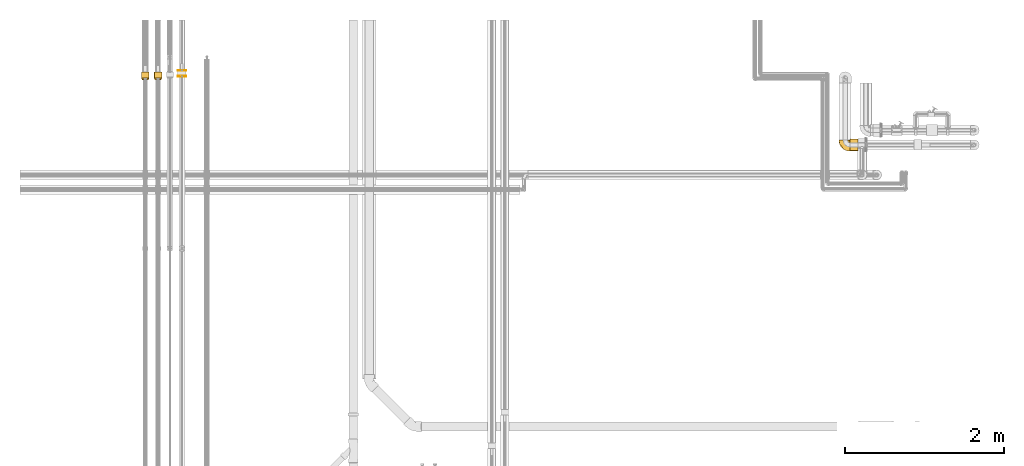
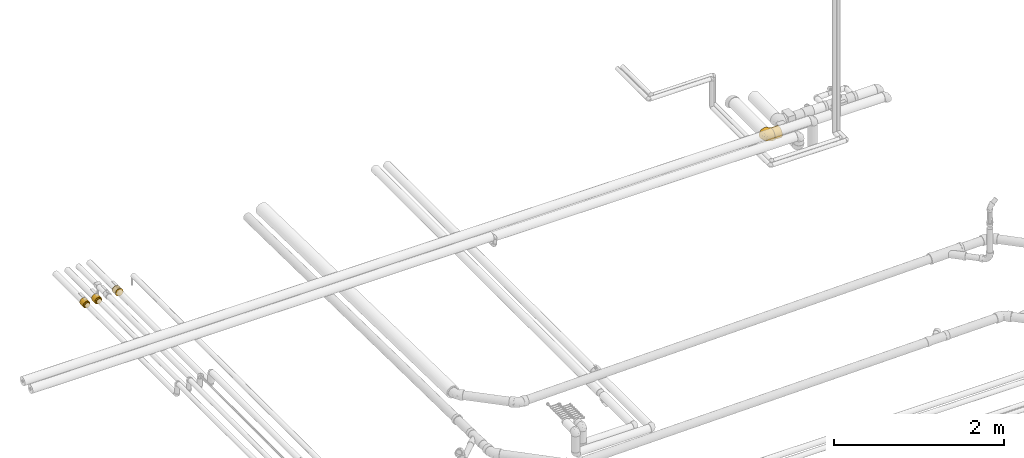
# One storey, part 6 of 83: 8 coverings.
"""IFC2X3 building model written with IfcOpenShell, lengths in millimetres."""

from ifc_helpers import new_model, entity, si_unit, converted_unit, derived_unit, direction, frame, origin_with_axes, origin_2d_with_axis, place, context, subcontext, project, spatial, hollow_circle, extrude, open_shell, surface_model, source, transform, mapped, element, save


model = new_model("IFC2X3")

# Units and contexts
model_context = context("Model", 3, precision=0.01, world=frame((0.0, 4.29681676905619e-09, 0.0)), true_north=direction((4.01073788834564e-13, 1.0)))
plan_context = context("Plan", 3, precision=0.01, world=frame((0.0, 4.29681676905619e-09, 0.0)), true_north=direction((4.01073788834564e-13, 1.0)))
body_context = subcontext(model_context, "Body", "Model", "MODEL_VIEW")
ifc_project = project(units=[converted_unit("PLANEANGLEUNIT", "DEGREE", entity("IfcPositiveLengthMeasure", 0.0174532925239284), si_unit("PLANEANGLEUNIT", "RADIAN"), dimensions=[0, 0, 0, 0, 0, 0, 0]), si_unit("AREAUNIT", "SQUARE_METRE"), si_unit("LENGTHUNIT", "METRE", prefix="MILLI"), si_unit("MASSUNIT", "GRAM", prefix="KILO"), si_unit("POWERUNIT", "WATT"), si_unit("PRESSUREUNIT", "PASCAL"), si_unit("FORCEUNIT", "NEWTON", prefix="KILO"), si_unit("ELECTRICVOLTAGEUNIT", "VOLT"), si_unit("ELECTRICCURRENTUNIT", "AMPERE"), si_unit("THERMODYNAMICTEMPERATUREUNIT", "DEGREE_CELSIUS"), si_unit("TIMEUNIT", "SECOND"), si_unit("VOLUMEUNIT", "CUBIC_METRE"), derived_unit("LINEARVELOCITYUNIT", [(si_unit("LENGTHUNIT", "METRE"), 1), (si_unit("TIMEUNIT", "SECOND"), -1)]), derived_unit("VOLUMETRICFLOWRATEUNIT", [(si_unit("VOLUMEUNIT", "CUBIC_METRE"), 1), (si_unit("TIMEUNIT", "SECOND"), -1)]), derived_unit("THERMALTRANSMITTANCEUNIT", [(si_unit("POWERUNIT", "WATT"), 1), (si_unit("THERMODYNAMICTEMPERATUREUNIT", "KELVIN"), -1), (si_unit("AREAUNIT", "SQUARE_METRE"), -1)]), derived_unit("SOUNDPRESSUREUNIT", [(si_unit("PRESSUREUNIT", "PASCAL"), 1)])], contexts=[model_context, plan_context])

# Site, building, storey
site_placement = place(None, frame((0.0, -4.29681676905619e-09, 0.0), z_axis=(0.0, 0.0, 1.0), x_axis=(1.0, 0.0, 0.0)))
site = spatial("IfcSite", under=ifc_project, at=site_placement, Name="ENGM", CompositionType="ELEMENT")
building_placement = place(site_placement, frame((0.0, 4.29681676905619e-09, 0.0), z_axis=(0.0, 0.0, 1.0), x_axis=(1.0, 0.0, 0.0)))
building = spatial("IfcBuilding", under=site, at=building_placement, Name="TI", CompositionType="ELEMENT")
storey_placement = place(building_placement, frame((0.0, 0.0, 204000.0), z_axis=(0.0, 0.0, 1.0), x_axis=(1.0, 0.0, 0.0)))
storey = spatial("IfcBuildingStorey", under=building, at=storey_placement, Name="Nivå D", CompositionType="ELEMENT", Elevation=204000.0)

# Coverings
shared_shape_1 = source(origin_with_axes(), body_context, "Body", "SurfaceModel", [
    surface_model("IfcShellBasedSurfaceModel", [(66.68615, 60.4, 44.5533), (44.55885, 60.4, 66.68245), (56.71233, 60.4, 56.70759), (74.09701, 60.4, 30.6867), (78.66008, 60.4, 15.64073), (-59.86937, 60.4, -53.36384), (-13.45191, 60.4, 79.06382), (0.0, 60.4, 80.2), (-26.52266, 60.4, 75.68744), (66.68245, 60.4, -44.55885), (80.2, 60.4, 0.0), (78.65881, 60.4, -15.6471), (74.09448, 60.4, -30.6928), (56.70759, 60.4, -56.71233), (44.5533, 60.4, -66.68615), (30.6867, 60.4, -74.09701), (-38.85297, 60.4, -70.16044), (-50.07051, 60.4, -62.6497), (-26.53389, 60.4, -75.6835), (0.0, 60.4, -80.2), (-13.46016, 60.4, -79.06241), (15.64073, 60.4, -78.66008), (-60.4, 47.38479, 64.70488), (-60.4, 59.86937, -53.36384), (-60.4, 47.38479, -64.70488), (-60.4, 16.77314, -78.42641), (-60.4, 16.77314, 78.42641), (-60.4, 32.80442, -73.18408), (-60.4, -20.75729, 77.46726), (-60.4, 0.0, 80.2), (-60.4, 59.86937, 53.36384), (-60.4, 32.80442, 73.18408), (-60.4, 0.0, -80.2), (-60.4, -20.75729, -77.46726), (-60.4, -40.1, -69.45524), (-60.4, -77.46726, -20.75729), (-60.4, -56.70997, -56.70997), (-60.4, -69.45524, -40.1), (-60.4, -40.1, 69.45524), (-60.4, -77.46726, 20.75729), (-60.4, -56.70997, 56.70997), (-60.4, -69.45524, 40.1), (-60.4, -80.2, 0.0), (-60.02478, 60.02478, 53.36384), (-60.02478, 60.02478, -53.36384), (-59.86937, 60.4, 53.36384), (-35.13493, 49.31431, -73.18165), (-30.44414, 36.38988, -77.12086), (-47.24837, 50.14287, -67.23448), (-51.76844, 1.71692, -80.2), (-49.59906, 26.61132, -76.22785), (-37.28592, 4.59768, -80.2), (-52.73185, 51.8369, -63.56342), (-42.45319, 40.2421, -72.90935), (-51.54432, 46.0645, -67.34579), (-56.12324, 44.39109, -67.16398), (-60.25988, 59.9274, -53.36384), (-36.88164, 25.89057, -78.00411), (-21.1535, 51.10695, -77.64859), (-45.04463, 56.76413, -66.64151), (-49.15929, 54.99138, -64.30522), (-59.9274, 60.25988, -53.36384), (-59.97609, 60.14233, -53.36384), (-20.84125, 41.65154, -78.45831), (-4.59768, 37.28592, -80.2), (-11.14421, 27.48834, -80.2), (-60.14233, 59.97609, -53.36384), (-2.29884, 48.84296, -80.2), (-17.69075, 17.69075, -80.2), (-27.48834, 11.14421, -80.2), (-48.22281, 2.42219, -80.2), (-38.04775, -11.91191, -78.72944), (75.40917, 24.01004, 0.0), (72.25534, 25.59122, -23.28207), (10.61001, 22.76207, -77.67441), (21.22289, 41.97871, -76.74814), (31.34576, 25.38063, -70.73221), (-3.74675, -31.18103, -64.77575), (-5.13665, -50.63443, -48.82266), (-32.87645, -45.29789, -63.62694), (-27.38508, -24.49772, -74.09514), (-4.74736, -5.39378, -75.94549), (46.21326, 31.25344, -62.60562), (36.40138, 43.87324, -70.73221), (-44.8504, -25.95034, -75.39633), (39.01921, -39.01921, 0.0), (49.22532, -23.71846, -19.55404), (61.36317, -9.9, 0.0), (-21.92667, -8.25016, -78.08521), (-22.38404, -68.61058, -30.69121), (-34.25952, -60.8409, -48.82266), (-34.15394, -76.26325, -15.12592), (22.35578, -47.44944, -26.93623), (25.62001, -10.18883, -61.99781), (44.02353, 6.8413, -56.46123), (37.09986, -19.13964, -46.3807), (18.79123, 5.85638, -71.78749), (57.98575, 29.33557, -50.88062), (9.9, -61.36317, 0.0), (66.5747, 27.65458, -37.80789), (57.74343, 3.50566, -37.8079), (18.9328, -40.15021, -43.03133), (9.31059, -35.56603, -55.16599), (-7.14053, -68.17975, -15.05794), (0.87984, -60.45932, -28.12389), (62.71669, -0.27663, -22.91513), (-24.01004, -75.40917, 0.0), (4.02735, 8.3767, -77.00574), (9.44148, -11.27075, -69.70024), (47.17014, -18.05894, -33.77057), (58.25151, 27.96235, 50.12561), (62.11094, 13.63756, 37.80204), (68.86186, 38.33131, 37.80204), (-21.55327, -72.8771, 16.7886), (-8.93094, -63.85731, 30.69121), (-37.04517, -72.05186, 30.69121), (48.04336, -22.81151, 24.73654), (28.08242, 17.78952, 70.72908), (20.54188, 39.16084, 76.74624), (8.43896, 21.5252, 77.99965), (43.58186, 7.06783, 56.95761), (22.34051, -7.09908, 65.42836), (34.21801, -17.24442, 50.87545), (-28.29947, -59.40083, 48.82266), (5.41219, -45.68707, 47.74068), (-11.73307, -37.38098, 63.62694), (2.27362, -63.23248, 17.75104), (23.80702, -49.34072, 18.96603), (49.08404, -10.51145, 39.06557), (-38.19227, -11.44439, 78.82289), (-34.65245, -26.97661, 74.09514), (-48.22281, 2.42219, 80.2), (27.59731, -37.89169, 36.27535), (-37.37974, -46.36918, 63.62694), (63.90334, 2.03316, 22.68626), (73.38333, 30.20673, 23.2758), (47.23671, 32.15612, 61.99357), (30.6928, 60.4, 74.09448), (15.6471, 60.4, 78.65881), (34.6965, 35.87563, 70.72909), (-12.06912, -23.90977, 71.26885), (-7.75233, -9.0194, 75.6161), (-23.22723, -15.01108, 76.62586), (-37.28592, 4.59768, 80.2), (-27.48834, 11.14421, 80.2), (-2.29884, 48.84296, 80.2), (-4.59768, 37.28592, 80.2), (13.04574, 5.0174, 73.71794), (6.541, -23.53082, 65.01615), (-2.98218, 9.37603, 78.50255), (-11.14421, 27.48834, 80.2), (-17.69075, 17.69075, 80.2), (-51.76844, 1.71692, 80.2), (-52.73034, 51.83578, 63.56483), (-47.24048, 50.13672, 67.24098), (-45.0362, 56.76319, 66.64715), (-49.15393, 54.98866, 64.3097), (-35.12322, 49.31397, 73.18652), (-60.25988, 59.9274, 53.36384), (-56.12324, 44.39109, 67.16398), (-51.54437, 46.06455, 67.34575), (-60.14233, 59.97609, 53.36384), (-49.59906, 26.61132, 76.22785), (-36.88467, 25.90213, 78.00143), (-59.97609, 60.14233, 53.36384), (-30.4326, 36.38986, 77.12344), (-21.14326, 51.1076, 77.65114), (-38.84256, 60.4, 70.1662), (-59.9274, 60.25988, 53.36384), (-50.06396, 60.4, 62.65492), (-20.83441, 41.65564, 78.45925), (-42.44607, 40.23511, 72.91391)], [open_shell([[[0, 1, 2]], [[0, 3, 4]], [[1, 0, 5]], [[6, 7, 8]], [[8, 7, 5]], [[9, 10, 11]], [[9, 11, 12]], [[9, 13, 14]], [[9, 14, 5]], [[10, 9, 5]], [[15, 5, 14]], [[5, 16, 17]], [[16, 5, 18]], [[19, 20, 5]], [[18, 5, 20]], [[15, 19, 5]], [[15, 21, 19]], [[10, 5, 0]], [[22, 23, 24]], [[24, 25, 26]], [[25, 24, 27]], [[25, 28, 29]], [[30, 23, 22]], [[22, 26, 31]], [[24, 26, 22]], [[25, 29, 26]], [[25, 32, 28]], [[33, 34, 35]], [[36, 37, 35]], [[36, 35, 34]], [[33, 35, 38]], [[38, 39, 40]], [[38, 28, 33]], [[40, 39, 41]], [[38, 35, 39]], [[42, 39, 35]], [[33, 28, 32]], [[23, 30, 43]], [[44, 23, 43]], [[45, 5, 43]], [[44, 43, 5]], [[46, 47, 48]], [[49, 32, 25]], [[49, 50, 51]], [[44, 48, 52]], [[50, 49, 25]], [[52, 53, 54]], [[25, 27, 50]], [[55, 24, 56]], [[54, 53, 57]], [[20, 58, 18]], [[24, 23, 56]], [[59, 60, 61]], [[59, 17, 16]], [[53, 48, 47]], [[5, 17, 61]], [[62, 60, 48]], [[61, 17, 59]], [[16, 18, 59]], [[46, 60, 59]], [[50, 57, 51]], [[63, 58, 64]], [[55, 27, 24]], [[46, 59, 58]], [[47, 63, 65]], [[52, 54, 66]], [[58, 59, 18]], [[20, 67, 58]], [[62, 48, 44]], [[54, 50, 55]], [[63, 46, 58]], [[47, 68, 57]], [[57, 68, 69]], [[54, 57, 50]], [[48, 60, 46]], [[61, 60, 62]], [[65, 68, 47]], [[47, 46, 63]], [[63, 64, 65]], [[27, 55, 50]], [[67, 20, 19]], [[67, 64, 58]], [[54, 56, 66]], [[48, 53, 52]], [[57, 53, 47]], [[56, 54, 55]], [[44, 52, 66]], [[51, 57, 69]], [[70, 71, 33]], [[70, 51, 71]], [[11, 72, 73]], [[74, 75, 76]], [[77, 78, 79]], [[77, 80, 81]], [[82, 76, 83]], [[71, 84, 33]], [[85, 86, 87]], [[15, 75, 21]], [[88, 81, 80]], [[12, 11, 73]], [[89, 37, 90]], [[35, 91, 42]], [[86, 85, 92]], [[37, 89, 35]], [[37, 36, 90]], [[34, 79, 36]], [[84, 79, 34]], [[93, 94, 95]], [[19, 21, 67]], [[76, 94, 96]], [[13, 9, 97]], [[82, 13, 97]], [[85, 98, 92]], [[99, 73, 100]], [[83, 75, 15]], [[21, 75, 67]], [[101, 78, 102]], [[103, 91, 89]], [[92, 98, 103]], [[104, 78, 101]], [[87, 86, 105]], [[103, 98, 106]], [[82, 94, 76]], [[105, 72, 87]], [[12, 99, 9]], [[107, 108, 81]], [[11, 10, 72]], [[97, 99, 100]], [[93, 96, 94]], [[74, 64, 75]], [[77, 79, 80]], [[14, 83, 15]], [[90, 79, 78]], [[107, 65, 74]], [[92, 101, 109]], [[73, 105, 100]], [[80, 71, 88]], [[102, 95, 101]], [[74, 96, 107]], [[96, 74, 76]], [[14, 13, 82]], [[75, 83, 76]], [[82, 83, 14]], [[82, 97, 94]], [[97, 100, 94]], [[95, 94, 100]], [[109, 95, 100]], [[95, 109, 101]], [[79, 90, 36]], [[89, 90, 78]], [[33, 32, 70]], [[69, 88, 51]], [[71, 80, 84]], [[81, 69, 68]], [[51, 88, 71]], [[69, 81, 88]], [[79, 84, 80]], [[34, 33, 84]], [[108, 96, 93]], [[96, 108, 107]], [[91, 103, 106]], [[104, 103, 89]], [[42, 91, 106]], [[89, 91, 35]], [[102, 108, 93]], [[77, 81, 108]], [[81, 68, 107]], [[105, 73, 72]], [[78, 104, 89]], [[92, 103, 104]], [[9, 99, 97]], [[12, 73, 99]], [[75, 64, 67]], [[65, 107, 68]], [[65, 64, 74]], [[109, 105, 86]], [[105, 109, 100]], [[92, 109, 86]], [[104, 101, 92]], [[102, 78, 77]], [[108, 102, 77]], [[95, 102, 93]], [[110, 111, 112]], [[42, 106, 113]], [[113, 114, 115]], [[87, 116, 85]], [[117, 118, 119]], [[120, 121, 122]], [[123, 124, 125]], [[126, 127, 114]], [[122, 128, 120]], [[98, 85, 127]], [[129, 28, 130]], [[28, 129, 131]], [[132, 127, 116]], [[133, 130, 38]], [[38, 40, 133]], [[115, 41, 39]], [[120, 128, 111]], [[41, 115, 123]], [[38, 130, 28]], [[85, 116, 127]], [[111, 134, 135]], [[133, 123, 125]], [[110, 2, 136]], [[128, 116, 134]], [[4, 3, 135]], [[2, 1, 136]], [[118, 137, 138]], [[135, 3, 112]], [[10, 4, 72]], [[137, 139, 1]], [[140, 141, 142]], [[41, 123, 40]], [[129, 142, 143]], [[118, 117, 139]], [[141, 144, 142]], [[120, 111, 110]], [[138, 145, 118]], [[134, 72, 135]], [[119, 118, 146]], [[139, 117, 136]], [[72, 4, 135]], [[128, 134, 111]], [[121, 117, 147]], [[0, 112, 3]], [[124, 123, 114]], [[122, 148, 124]], [[132, 122, 124]], [[126, 114, 113]], [[132, 114, 127]], [[148, 122, 121]], [[0, 2, 110]], [[135, 112, 111]], [[110, 112, 0]], [[110, 136, 120]], [[136, 117, 120]], [[121, 120, 117]], [[147, 117, 119]], [[141, 140, 148]], [[149, 150, 151]], [[119, 149, 147]], [[123, 133, 40]], [[130, 133, 125]], [[131, 129, 143]], [[131, 29, 28]], [[142, 129, 130]], [[140, 130, 125]], [[144, 149, 151]], [[130, 140, 142]], [[148, 140, 125]], [[124, 148, 125]], [[148, 121, 147]], [[116, 87, 134]], [[72, 134, 87]], [[132, 116, 128]], [[114, 132, 124]], [[39, 42, 113]], [[123, 115, 114]], [[39, 113, 115]], [[126, 106, 98]], [[106, 126, 113]], [[98, 127, 126]], [[150, 149, 119]], [[148, 147, 141]], [[141, 147, 149]], [[1, 139, 136]], [[137, 118, 139]], [[145, 138, 7]], [[145, 146, 118]], [[132, 128, 122]], [[119, 146, 150]], [[141, 149, 144]], [[144, 143, 142]], [[26, 29, 152]], [[153, 154, 43]], [[155, 156, 157]], [[22, 158, 30]], [[159, 160, 158]], [[43, 161, 153]], [[160, 162, 163]], [[154, 164, 43]], [[165, 157, 154]], [[26, 162, 31]], [[163, 143, 144]], [[26, 152, 162]], [[166, 145, 6]], [[159, 31, 162]], [[166, 8, 167]], [[7, 6, 145]], [[168, 164, 156]], [[166, 167, 155]], [[6, 8, 166]], [[157, 166, 155]], [[169, 155, 167]], [[170, 166, 157]], [[143, 162, 152]], [[154, 157, 156]], [[170, 146, 166]], [[169, 45, 168]], [[169, 168, 155]], [[22, 159, 158]], [[165, 163, 151]], [[154, 153, 171]], [[165, 150, 170]], [[163, 165, 171]], [[143, 163, 162]], [[168, 156, 155]], [[154, 156, 164]], [[157, 165, 170]], [[31, 159, 22]], [[150, 165, 151]], [[150, 146, 170]], [[160, 159, 162]], [[166, 146, 145]], [[161, 158, 160]], [[171, 153, 160]], [[163, 171, 160]], [[154, 171, 165]], [[153, 161, 160]], [[144, 151, 163]], [[1, 138, 137]], [[1, 5, 7]], [[7, 138, 1]], [[167, 8, 169]], [[5, 169, 8]], [[169, 5, 45]], [[10, 0, 4]]])]),
])
covering_1_placement = place(storey_placement, frame((608357.22198, 697908.0, 5915.24411), z_axis=(0.0, 0.0, 1.0), x_axis=(0.0, -1.0, 0.0)))
element("IfcCovering", 1, at=covering_1_placement, inside=storey, Name="BI11T - Rørskål m/Al.folie - varme 60-25", PredefinedType="INSULATION", context=body_context, shape_type="MappedRepresentation", body=[
    mapped(shared_shape_1, transform((0.0, 0.0, 0.0), scale=1.0)),
])
shared_shape_2 = source(origin_with_axes(), body_context, "Body", "SweptSolid", [
    extrude(hollow_circle(Radius=75.0, WallThickness=50.0, at=origin_2d_with_axis()), frame((0.0, 0.0, 0.0), z_axis=(1.0, 0.0, 0.0), x_axis=(0.0, 1.0, 0.0)), (0.0, 0.0, 1.0), 102.8),
])
covering_2_placement = place(storey_placement, frame((608520.37351, 697908.0, 5915.24411), z_axis=(0.0, 0.0, 1.0), x_axis=(-1.0, 0.0, 0.0)))
element("IfcCovering", 2, at=covering_2_placement, inside=storey, Name="BI11T - Rørskål m/Al.folie - varme 60-25", PredefinedType="INSULATION", context=body_context, shape_type="MappedRepresentation", body=[
    mapped(shared_shape_2, transform((0.0, 0.0, 0.0), scale=1.0)),
])
shared_shape_3 = source(origin_with_axes(), body_context, "Body", "SurfaceModel", [
    surface_model("IfcShellBasedSurfaceModel", [(7.0, 0.0, 52.5), (7.0, -20.09088, 48.50368), (7.0, -37.12311, 37.12311), (7.0, -48.50368, 20.09088), (7.0, -52.5, 0.0), (7.0, -48.50368, -20.09088), (7.0, 20.09088, 48.50368), (7.0, 48.50368, 20.09088), (7.0, 37.12311, 37.12311), (7.0, 20.09088, -48.50368), (7.0, -37.12311, -37.12311), (7.0, -20.09088, -48.50368), (7.0, 0.0, -52.5), (7.0, 48.50368, -20.09088), (7.0, 52.5, 0.0), (7.0, 37.12311, -37.12311), (0.0, 0.0, 52.5), (0.0, 20.09088, 48.50368), (0.0, 37.12311, 37.12311), (0.0, 48.50368, 20.09088), (0.0, -37.12311, 37.12311), (0.0, -20.09088, 48.50368), (0.0, -52.5, 0.0), (0.0, -48.50368, 20.09088), (0.0, -48.50368, -20.09088), (0.0, 52.5, 0.0), (0.0, 48.50368, -20.09088), (0.0, 37.12311, -37.12311), (0.0, 20.09088, -48.50368), (0.0, -37.12311, -37.12311), (0.0, 0.0, -52.5), (0.0, -20.09088, -48.50368), (0.0, -50.50184, -10.04544), (7.0, -50.96747, -7.70454), (0.0, -42.81339, -28.60699), (7.0, -42.81339, -28.60699), (7.0, -28.60699, -42.81339), (0.0, -10.04544, -50.50184), (7.0, -10.04544, -50.50184), (0.0, -28.60699, -42.81339), (0.0, 10.04544, -50.50184), (7.0, 7.70454, -50.96747), (0.0, 28.60699, -42.81339), (7.0, 28.60699, -42.81339), (7.0, 42.81339, -28.60699), (0.0, 50.50184, -10.04544), (7.0, 50.50184, -10.04544), (0.0, 42.81339, -28.60699), (0.0, 50.50184, 10.04544), (7.0, 50.96747, 7.70454), (0.0, 42.81339, 28.60699), (7.0, 42.81339, 28.60699), (7.0, 28.60699, 42.81339), (0.0, 10.04544, 50.50184), (7.0, 10.04544, 50.50184), (0.0, 28.60699, 42.81339), (0.0, -10.04544, 50.50184), (7.0, -7.70454, 50.96747), (0.0, -28.60699, 42.81339), (7.0, -28.60699, 42.81339), (7.0, -42.81339, 28.60699), (0.0, -50.50184, 10.04544), (7.0, -50.50184, 10.04544), (0.0, -42.81339, 28.60699)], [open_shell([[[0, 1, 2]], [[3, 4, 2]], [[5, 0, 2]], [[6, 0, 7]], [[7, 8, 6]], [[7, 0, 5]], [[5, 2, 4]], [[9, 5, 10]], [[11, 12, 10]], [[9, 10, 12]], [[13, 14, 15]], [[14, 7, 15]], [[5, 9, 15]], [[15, 7, 5]], [[16, 17, 18]], [[18, 19, 16]], [[16, 19, 20]], [[21, 16, 20]], [[22, 23, 20]], [[20, 24, 22]], [[20, 19, 25]], [[25, 26, 27]], [[27, 28, 25]], [[28, 24, 20]], [[29, 24, 30]], [[30, 31, 29]], [[24, 28, 30]], [[28, 20, 25]], [[5, 32, 24]], [[33, 22, 32]], [[10, 34, 29]], [[5, 33, 32]], [[22, 33, 4]], [[35, 24, 34]], [[29, 36, 10]], [[37, 12, 38]], [[12, 37, 30]], [[38, 31, 37]], [[36, 29, 39]], [[35, 5, 24]], [[39, 31, 11]], [[39, 11, 36]], [[38, 11, 31]], [[34, 10, 35]], [[9, 40, 28]], [[41, 30, 40]], [[15, 42, 27]], [[9, 41, 40]], [[30, 41, 12]], [[43, 28, 42]], [[27, 44, 15]], [[45, 14, 46]], [[14, 45, 25]], [[46, 26, 45]], [[44, 27, 47]], [[43, 9, 28]], [[47, 26, 13]], [[47, 13, 44]], [[46, 13, 26]], [[42, 15, 43]], [[7, 48, 19]], [[49, 25, 48]], [[8, 50, 18]], [[7, 49, 48]], [[25, 49, 14]], [[51, 19, 50]], [[18, 52, 8]], [[53, 0, 54]], [[0, 53, 16]], [[54, 17, 53]], [[52, 18, 55]], [[51, 7, 19]], [[55, 17, 6]], [[55, 6, 52]], [[54, 6, 17]], [[50, 8, 51]], [[1, 56, 21]], [[57, 16, 56]], [[2, 58, 20]], [[1, 57, 56]], [[16, 57, 0]], [[59, 21, 58]], [[20, 60, 2]], [[61, 4, 62]], [[4, 61, 22]], [[62, 23, 61]], [[60, 20, 63]], [[59, 1, 21]], [[63, 23, 3]], [[63, 3, 60]], [[62, 3, 23]], [[58, 2, 59]]])]),
])
for number, where, z_axis, x_axis in (
    (3, (600031.9743, 698846.72914, 6052.20000000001), (0.0, 0.0, 1.0), (0.0, -1.0, 0.0)),
    (4, (600031.9743, 698772.72914, 6052.20000000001), (0.0, 0.0, 1.0), (0.0, -1.0, 0.0)),
):
    element("IfcCovering", number, at=place(storey_placement, frame(where, z_axis=z_axis, x_axis=x_axis)), inside=storey, Name="BI16T - Rørskål m/Al.folie - VV 40mm", PredefinedType="INSULATION", context=body_context, shape_type="MappedRepresentation", body=[
        mapped(shared_shape_3, transform((0.0, 0.0, 0.0), scale=1.0)),
    ])
shared_shape_4 = source(origin_with_axes(), body_context, "Body", "SurfaceModel", [
    surface_model("IfcShellBasedSurfaceModel", [(40.5, 24.425, -42.30534), (40.5, 0.0, -48.85), (40.5, 12.64331, -47.18548), (40.5, 42.30534, -24.425), (40.5, 34.54217, -34.54217), (40.5, -24.425, -42.30534), (40.5, -12.64331, -47.18548), (40.5, 47.18548, 12.64331), (40.5, 42.30534, 24.425), (40.5, 34.54217, 34.54217), (40.5, 12.64331, 47.18548), (40.5, 24.425, 42.30534), (40.5, -34.54217, 34.54217), (40.5, -12.64331, 47.18548), (40.5, -24.425, 42.30534), (-40.5, 34.54217, 34.54217), (-40.5, 42.30534, 24.425), (-40.5, 47.18548, 12.64331), (-40.5, -12.64331, 47.18548), (-40.5, -34.54217, 34.54217), (-40.5, -24.425, 42.30534), (-40.5, 24.425, -42.30534), (-40.5, 42.30534, -24.425), (-40.5, 34.54217, -34.54217), (-40.5, -24.425, -42.30534), (-40.5, 0.0, -48.85), (-40.5, -12.64331, -47.18548), (-40.5, 48.85, 0.0), (40.5, 48.85, 0.0), (-40.5, 24.425, 42.30534), (-40.5, 12.64331, 47.18548), (-40.5, 0.0, 48.85), (40.5, 0.0, 48.85), (40.5, -42.30534, 24.425), (-40.5, -42.30534, 24.425), (-40.5, -47.18548, 12.64331), (40.5, -47.18548, 12.64331), (-40.5, -48.85, 0.0), (40.5, -48.85, 0.0), (40.5, -47.18548, -12.64331), (-40.5, -47.18548, -12.64331), (-40.5, -42.30534, -24.425), (40.5, -42.30534, -24.425), (-40.5, -34.54217, -34.54217), (40.5, -34.54217, -34.54217), (-40.5, 12.64331, -47.18548), (-40.5, 47.18548, -12.64331), (40.5, 47.18548, -12.64331)], [open_shell([[[0, 1, 2]], [[3, 0, 4]], [[1, 5, 6]], [[7, 8, 9]], [[10, 9, 11]], [[12, 13, 14]], [[15, 16, 17]], [[18, 19, 20]], [[21, 22, 23]], [[24, 25, 26]], [[27, 17, 7]], [[28, 27, 7]], [[16, 8, 7]], [[8, 16, 15]], [[17, 16, 7]], [[15, 9, 8]], [[11, 29, 30]], [[10, 30, 31]], [[9, 29, 11]], [[11, 30, 10]], [[31, 32, 10]], [[29, 9, 15]], [[13, 18, 20]], [[14, 20, 19]], [[31, 18, 32]], [[32, 18, 13]], [[20, 14, 13]], [[19, 12, 14]], [[33, 34, 35]], [[36, 35, 37]], [[12, 34, 33]], [[33, 35, 36]], [[37, 38, 36]], [[34, 12, 19]], [[39, 40, 41]], [[42, 41, 43]], [[37, 40, 38]], [[38, 40, 39]], [[41, 42, 39]], [[43, 44, 42]], [[5, 24, 26]], [[6, 26, 25]], [[44, 24, 5]], [[5, 26, 6]], [[25, 1, 6]], [[24, 44, 43]], [[2, 45, 21]], [[0, 21, 23]], [[25, 45, 1]], [[1, 45, 2]], [[21, 0, 2]], [[23, 4, 0]], [[3, 22, 46]], [[47, 46, 27]], [[4, 22, 3]], [[3, 46, 47]], [[27, 28, 47]], [[22, 4, 23]], [[44, 39, 42]], [[40, 43, 41]], [[15, 30, 29]], [[44, 3, 47]], [[0, 3, 1]], [[47, 38, 44]], [[5, 1, 44]], [[44, 1, 3]], [[44, 38, 39]], [[47, 28, 38]], [[38, 7, 9]], [[38, 9, 10]], [[13, 10, 32]], [[38, 33, 36]], [[33, 38, 12]], [[12, 38, 10]], [[10, 13, 12]], [[7, 38, 28]], [[30, 18, 31]], [[18, 30, 15]], [[18, 15, 17]], [[18, 17, 19]], [[34, 37, 35]], [[37, 34, 19]], [[17, 37, 19]], [[17, 40, 37]], [[40, 17, 46]], [[22, 40, 46]], [[43, 22, 21]], [[45, 43, 21]], [[40, 22, 43]], [[25, 24, 43]], [[45, 25, 43]], [[46, 17, 27]]])]),
])
for number, where, z_axis, x_axis in (
    (5, (599732.2743, 698782.47914, 6052.16938000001), (0.0, -2.69999999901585e-05, 0.9999999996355), (0.0, 0.9999999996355, 2.69999999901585e-05)),
    (6, (599571.9743, 698782.47914, 6052.20000000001), (0.0, 0.0, 1.0), (0.0, 1.0, 0.0)),
):
    element("IfcCovering", number, at=place(storey_placement, frame(where, z_axis=z_axis, x_axis=x_axis)), inside=storey, Name="BI10T - Cellegummi 18-32 mm kalde rør", PredefinedType="INSULATION", context=body_context, shape_type="MappedRepresentation", body=[
        mapped(shared_shape_4, transform((0.0, 0.0, 0.0), scale=1.0)),
    ])
shared_shape_5 = source(origin_with_axes(), body_context, "Body", "SurfaceModel", [
    surface_model("IfcShellBasedSurfaceModel", [(15.6, -18.7, 32.38935), (15.6, -32.38935, 18.7), (15.6, -37.4, 0.0), (15.6, 0.0, 37.4), (15.6, 32.38935, 18.7), (15.6, 18.7, 32.38935), (15.6, 37.4, 0.0), (15.6, -32.38935, -18.7), (15.6, -18.7, -32.38935), (15.6, 0.0, -37.4), (15.6, 18.7, -32.38935), (15.6, 32.38935, -18.7), (0.0, -22.6, 39.14435), (0.0, 0.0, 45.2), (0.0, 22.6, 39.14435), (0.0, 39.14435, 22.6), (0.0, -39.14435, 22.6), (0.0, -39.14435, -22.6), (0.0, -45.2, 0.0), (0.0, 22.6, -39.14435), (0.0, 39.14435, -22.6), (0.0, -22.6, -39.14435), (0.0, 0.0, -45.2), (0.0, 45.2, 0.0), (15.6, -10.02451, -34.71394), (15.6, -25.54468, -25.54468), (0.0, -30.87217, -30.87217), (0.0, -11.3, -42.17218), (0.0, -41.95374, -12.11519), (15.6, -34.89467, -9.35), (15.6, 34.71394, -10.02451), (15.6, 25.54468, -25.54468), (0.0, 30.87217, -30.87217), (0.0, 42.17218, -11.3), (0.0, 12.11519, -41.95374), (15.6, 9.35, -34.89467), (15.6, 10.02451, 34.71394), (15.6, 25.54468, 25.54468), (0.0, 30.87217, 30.87217), (0.0, 11.3, 42.17218), (0.0, 41.95374, 12.11519), (15.6, 34.89467, 9.35), (15.6, -34.71394, 10.02451), (15.6, -25.54468, 25.54468), (0.0, -30.87217, 30.87217), (0.0, -42.17218, 11.3), (0.0, -12.11519, 41.95374), (15.6, -9.35, 34.89467)], [open_shell([[[0, 1, 2]], [[0, 2, 3]], [[3, 4, 5]], [[6, 4, 3]], [[3, 2, 6]], [[7, 8, 9]], [[9, 6, 2]], [[6, 10, 11]], [[10, 6, 9]], [[9, 2, 7]], [[12, 13, 14]], [[12, 14, 15]], [[16, 17, 18]], [[12, 17, 16]], [[12, 15, 19]], [[20, 19, 15]], [[19, 17, 12]], [[19, 21, 17]], [[21, 19, 22]], [[15, 23, 20]], [[21, 24, 8]], [[21, 25, 26]], [[9, 24, 27]], [[27, 22, 9]], [[26, 25, 7]], [[18, 28, 29]], [[29, 2, 18]], [[24, 21, 27]], [[7, 17, 26]], [[7, 28, 17]], [[8, 25, 21]], [[28, 7, 29]], [[20, 30, 11]], [[20, 31, 32]], [[6, 30, 33]], [[33, 23, 6]], [[32, 31, 10]], [[22, 34, 35]], [[35, 9, 22]], [[30, 20, 33]], [[10, 19, 32]], [[10, 34, 19]], [[11, 31, 20]], [[34, 10, 35]], [[14, 36, 5]], [[14, 37, 38]], [[3, 36, 39]], [[39, 13, 3]], [[38, 37, 4]], [[23, 40, 41]], [[41, 6, 23]], [[36, 14, 39]], [[4, 15, 38]], [[4, 40, 15]], [[5, 37, 14]], [[40, 4, 41]], [[16, 42, 1]], [[16, 43, 44]], [[2, 42, 45]], [[45, 18, 2]], [[44, 43, 0]], [[13, 46, 47]], [[47, 3, 13]], [[42, 16, 45]], [[0, 12, 44]], [[0, 46, 12]], [[1, 43, 16]], [[46, 0, 47]]])]),
])
for number, where, z_axis, x_axis in (
    (7, (599571.9743, 698741.97914, 6052.20000000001), (0.0, 0.0, 1.0), (0.0, -1.0, 0.0)),
    (8, (599732.2743, 698741.97914, 6052.16826999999), (-6.999999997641e-06, -2.4999999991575e-05, 0.999999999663), (2.7999999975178e-11, -0.9999999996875, -2.49999999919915e-05)),
):
    element("IfcCovering", number, at=place(storey_placement, frame(where, z_axis=z_axis, x_axis=x_axis)), inside=storey, Name="BI10T - Cellegummi 18-32 mm kalde rør", PredefinedType="INSULATION", context=body_context, shape_type="MappedRepresentation", body=[
        mapped(shared_shape_5, transform((0.0, 0.0, 0.0), scale=1.0)),
    ])

save(model, "model.ifc")
